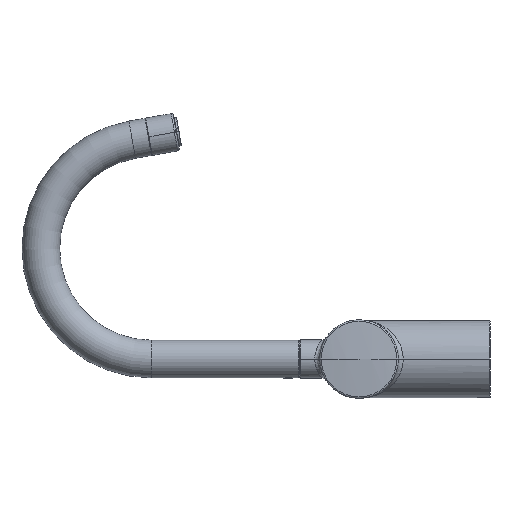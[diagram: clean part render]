
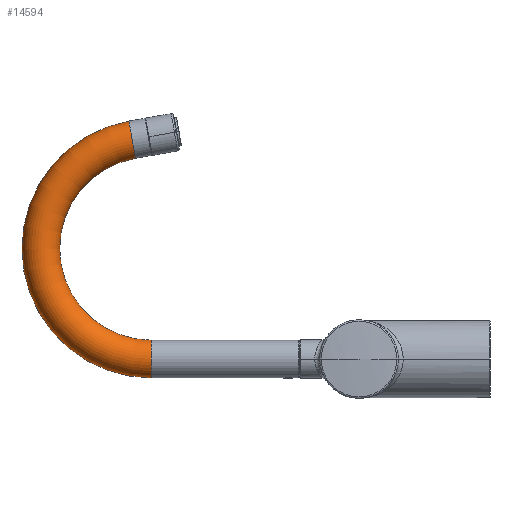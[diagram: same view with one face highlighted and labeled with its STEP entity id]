
A CAD part, left-side view. The second image highlights one B-rep face of the part: STEP entity #14594.
In plain terms, the highlighted toroidal (fillet/blend) face has major radius 67.5 mm and minor radius 11.5 mm.
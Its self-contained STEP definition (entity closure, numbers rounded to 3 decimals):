
#14433=CARTESIAN_POINT('',(0.,206.825,0.));
#14434=DIRECTION('',(0.,1.,0.));
#14435=DIRECTION('',(0.,0.,-1.));
#14436=AXIS2_PLACEMENT_3D('',#14433,#14434,#14435);
#14438=CARTESIAN_POINT('',(0.,206.825,67.5));
#14439=DIRECTION('',(1.,0.,0.));
#14440=DIRECTION('',(0.,0.,-1.));
#14441=AXIS2_PLACEMENT_3D('',#14438,#14439,#14440);
#14448=CARTESIAN_POINT('',(0.,206.825,67.5));
#14449=DIRECTION('',(1.,0.,0.));
#14450=DIRECTION('',(0.,0.,-1.));
#14451=AXIS2_PLACEMENT_3D('',#14448,#14449,#14450);
#14462=CARTESIAN_POINT('',(0.,218.546,133.975));
#14463=DIRECTION('',(0.,-0.985,0.174));
#14464=DIRECTION('',(0.,0.174,0.985));
#14465=AXIS2_PLACEMENT_3D('',#14462,#14463,#14464);
#14485=CARTESIAN_POINT('',(0.,206.825,11.5));
#14486=CARTESIAN_POINT('',(0.,206.825,-11.5));
#14487=VERTEX_POINT('',#14485);
#14488=VERTEX_POINT('',#14486);
#14489=CARTESIAN_POINT('',(0.,216.549,122.649));
#14490=CARTESIAN_POINT('',(0.,220.543,145.3));
#14491=VERTEX_POINT('',#14489);
#14492=VERTEX_POINT('',#14490);
#14580=CARTESIAN_POINT('',(0.,206.825,67.5));
#14581=DIRECTION('',(1.,0.,0.));
#14582=DIRECTION('',(0.,0.,1.));
#14583=AXIS2_PLACEMENT_3D('',#14580,#14581,#14582);
#14584=TOROIDAL_SURFACE('',#14583,67.5,11.5);
#14585=ORIENTED_EDGE('',*,*,#14570,.F.);
#14587=ORIENTED_EDGE('',*,*,#14586,.T.);
#14589=ORIENTED_EDGE('',*,*,#14588,.T.);
#14591=ORIENTED_EDGE('',*,*,#14590,.F.);
#14592=EDGE_LOOP('',(#14585,#14587,#14589,#14591));
#14593=FACE_OUTER_BOUND('',#14592,.F.);
#14594=ADVANCED_FACE('',(#14593),#14584,.T.);
#14437=CIRCLE('',#14436,11.5);
#14442=CIRCLE('',#14441,79.);
#14452=CIRCLE('',#14451,56.);
#14466=CIRCLE('',#14465,11.5);
#14570=EDGE_CURVE('',#14488,#14487,#14437,.T.);
#14586=EDGE_CURVE('',#14488,#14492,#14442,.T.);
#14588=EDGE_CURVE('',#14492,#14491,#14466,.T.);
#14590=EDGE_CURVE('',#14487,#14491,#14452,.T.);
